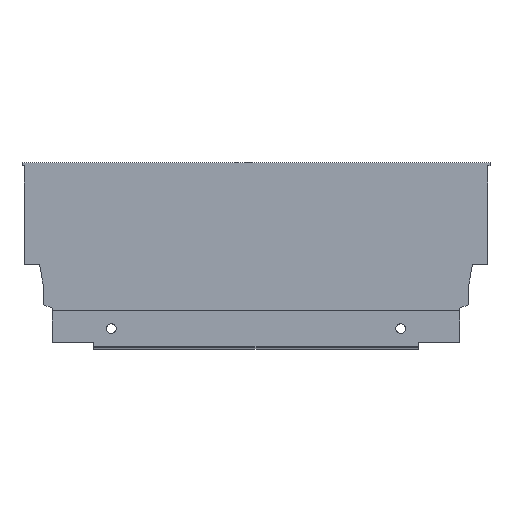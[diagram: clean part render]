
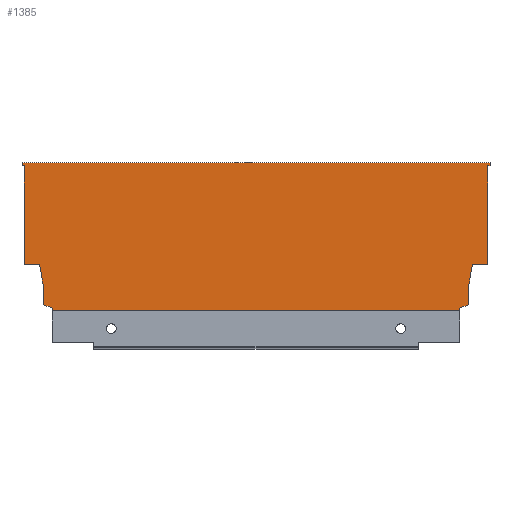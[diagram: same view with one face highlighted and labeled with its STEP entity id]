
A CAD part, top view. The second image highlights one B-rep face of the part: STEP entity #1385.
In plain terms, the highlighted planar face has unit normal (0, 0, 1).
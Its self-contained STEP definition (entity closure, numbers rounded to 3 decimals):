
#6 = CARTESIAN_POINT ( 'NONE',  ( 0., 21.2, 7.5 ) ) ;
#7 = CARTESIAN_POINT ( 'NONE',  ( -8.9, 2.64, 7.5 ) ) ;
#13 = CARTESIAN_POINT ( 'NONE',  ( 1., 66.5, 7.5 ) ) ;
#104 = VERTEX_POINT ( 'NONE', #13 ) ;
#110 = VERTEX_POINT ( 'NONE', #7 ) ;
#111 = VERTEX_POINT ( 'NONE', #6 ) ;
#113 = VERTEX_POINT ( 'NONE', #1464 ) ;
#116 = VERTEX_POINT ( 'NONE', #1461 ) ;
#118 = VERTEX_POINT ( 'NONE', #1459 ) ;
#119 = VERTEX_POINT ( 'NONE', #1458 ) ;
#122 = VERTEX_POINT ( 'NONE', #1455 ) ;
#124 = VERTEX_POINT ( 'NONE', #1453 ) ;
#125 = VERTEX_POINT ( 'NONE', #1452 ) ;
#128 = VERTEX_POINT ( 'NONE', #1449 ) ;
#129 = VERTEX_POINT ( 'NONE', #1448 ) ;
#130 = VERTEX_POINT ( 'NONE', #1447 ) ;
#136 = VERTEX_POINT ( 'NONE', #1441 ) ;
#138 = VERTEX_POINT ( 'NONE', #1439 ) ;
#139 = VERTEX_POINT ( 'NONE', #1438 ) ;
#141 = VERTEX_POINT ( 'NONE', #1436 ) ;
#142 = VERTEX_POINT ( 'NONE', #1435 ) ;
#169 = CARTESIAN_POINT ( 'NONE',  ( -213., 0., 7.5 ) ) ;
#171 = PLANE ( 'NONE',  #1013 ) ;
#176 = DIRECTION ( 'NONE',  ( 0., 0., 1. ) ) ;
#177 = DIRECTION ( 'NONE',  ( 1., 0., 0. ) ) ;
#365 = CARTESIAN_POINT ( 'NONE',  ( -214., 66.5, 7.5 ) ) ;
#366 = DIRECTION ( 'NONE',  ( 0., 1., 0. ) ) ;
#368 = CARTESIAN_POINT ( 'NONE',  ( -205.94, 21.2, 7.5 ) ) ;
#369 = DIRECTION ( 'NONE',  ( -0.174, 0.985, 0. ) ) ;
#370 = CARTESIAN_POINT ( 'NONE',  ( -213., 0., 7.5 ) ) ;
#375 = CARTESIAN_POINT ( 'NONE',  ( -213., 0., 7.5 ) ) ;
#376 = DIRECTION ( 'NONE',  ( 0., -1., 0. ) ) ;
#377 = CARTESIAN_POINT ( 'NONE',  ( -214., 66.5, 7.5 ) ) ;
#378 = DIRECTION ( 'NONE',  ( 1., 0., 0. ) ) ;
#379 = CARTESIAN_POINT ( 'NONE',  ( -204.1, 2.64, 7.5 ) ) ;
#380 = DIRECTION ( 'NONE',  ( -0.94, 0.342, 0. ) ) ;
#381 = CARTESIAN_POINT ( 'NONE',  ( -218., 21.2, 7.5 ) ) ;
#382 = DIRECTION ( 'NONE',  ( 1., 0., 0. ) ) ;
#383 = CARTESIAN_POINT ( 'NONE',  ( -8.9, 10.765, 7.5 ) ) ;
#384 = DIRECTION ( 'NONE',  ( 0., -1., 0. ) ) ;
#385 = CARTESIAN_POINT ( 'NONE',  ( -7.06, 21.2, 7.5 ) ) ;
#386 = DIRECTION ( 'NONE',  ( -1., 0., 0. ) ) ;
#387 = CARTESIAN_POINT ( 'NONE',  ( -213., 68., 7.5 ) ) ;
#388 = DIRECTION ( 'NONE',  ( -0.174, -0.985, 0. ) ) ;
#389 = CARTESIAN_POINT ( 'NONE',  ( 0., 21.2, 7.5 ) ) ;
#390 = DIRECTION ( 'NONE',  ( 1., 0., 0. ) ) ;
#391 = CARTESIAN_POINT ( 'NONE',  ( -204.1, 10.765, 7.5 ) ) ;
#392 = DIRECTION ( 'NONE',  ( -1., 0., 0. ) ) ;
#393 = CARTESIAN_POINT ( 'NONE',  ( 1., 66.5, 7.5 ) ) ;
#394 = DIRECTION ( 'NONE',  ( 0., 1., 0. ) ) ;
#395 = CARTESIAN_POINT ( 'NONE',  ( 1., 68., 7.5 ) ) ;
#396 = DIRECTION ( 'NONE',  ( -1., 0., 0. ) ) ;
#397 = CARTESIAN_POINT ( 'NONE',  ( -199.996, 1.146, 7.5 ) ) ;
#398 = DIRECTION ( 'NONE',  ( 0., 1., 0. ) ) ;
#400 = DIRECTION ( 'NONE',  ( 0., -1., 0. ) ) ;
#401 = CARTESIAN_POINT ( 'NONE',  ( -13.004, 1.146, 7.5 ) ) ;
#402 = DIRECTION ( 'NONE',  ( 0., -1., 0. ) ) ;
#405 = CARTESIAN_POINT ( 'NONE',  ( -8.9, 2.64, 7.5 ) ) ;
#406 = DIRECTION ( 'NONE',  ( -0.94, -0.342, 0. ) ) ;
#624 = DIRECTION ( 'NONE',  ( 0., -1., 0. ) ) ;
#629 = CARTESIAN_POINT ( 'NONE',  ( 0., 0., 7.5 ) ) ;
#735 = EDGE_LOOP ( 'NONE', ( #944, #943, #942, #941, #940, #939, #938, #937, #936, #935, #934, #933, #932, #931, #930, #929, #928, #927 ) ) ;
#927 = ORIENTED_EDGE ( 'NONE', *, *, #1488, .F. ) ;
#928 = ORIENTED_EDGE ( 'NONE', *, *, #1486, .F. ) ;
#929 = ORIENTED_EDGE ( 'NONE', *, *, #989, .F. ) ;
#930 = ORIENTED_EDGE ( 'NONE', *, *, #1484, .F. ) ;
#931 = ORIENTED_EDGE ( 'NONE', *, *, #1482, .F. ) ;
#932 = ORIENTED_EDGE ( 'NONE', *, *, #1480, .F. ) ;
#933 = ORIENTED_EDGE ( 'NONE', *, *, #1491, .F. ) ;
#934 = ORIENTED_EDGE ( 'NONE', *, *, #1489, .F. ) ;
#935 = ORIENTED_EDGE ( 'NONE', *, *, #1477, .T. ) ;
#936 = ORIENTED_EDGE ( 'NONE', *, *, #1487, .F. ) ;
#937 = ORIENTED_EDGE ( 'NONE', *, *, #1478, .F. ) ;
#938 = ORIENTED_EDGE ( 'NONE', *, *, #1485, .F. ) ;
#939 = ORIENTED_EDGE ( 'NONE', *, *, #1473, .F. ) ;
#940 = ORIENTED_EDGE ( 'NONE', *, *, #1481, .F. ) ;
#941 = ORIENTED_EDGE ( 'NONE', *, *, #1476, .T. ) ;
#942 = ORIENTED_EDGE ( 'NONE', *, *, #1479, .T. ) ;
#943 = ORIENTED_EDGE ( 'NONE', *, *, #1472, .F. ) ;
#944 = ORIENTED_EDGE ( 'NONE', *, *, #1483, .F. ) ;
#989 = EDGE_CURVE ( 'NONE', #118, #111, #1384, .T. ) ;
#1013 = AXIS2_PLACEMENT_3D ( 'NONE', #169, #176, #177 ) ;
#1248 = VECTOR ( 'NONE', #406, 1000. ) ;
#1249 = LINE ( 'NONE', #405, #1248 ) ;
#1252 = VECTOR ( 'NONE', #402, 1000. ) ;
#1253 = LINE ( 'NONE', #401, #1252 ) ;
#1255 = VECTOR ( 'NONE', #400, 1000. ) ;
#1256 = VECTOR ( 'NONE', #398, 1000. ) ;
#1257 = LINE ( 'NONE', #397, #1256 ) ;
#1259 = VECTOR ( 'NONE', #396, 1000. ) ;
#1261 = VECTOR ( 'NONE', #394, 1000. ) ;
#1262 = LINE ( 'NONE', #395, #1255 ) ;
#1263 = VECTOR ( 'NONE', #392, 1000. ) ;
#1264 = LINE ( 'NONE', #393, #1259 ) ;
#1265 = VECTOR ( 'NONE', #390, 1000. ) ;
#1266 = LINE ( 'NONE', #391, #1261 ) ;
#1267 = VECTOR ( 'NONE', #388, 1000. ) ;
#1268 = LINE ( 'NONE', #389, #1263 ) ;
#1269 = VECTOR ( 'NONE', #386, 1000. ) ;
#1270 = VECTOR ( 'NONE', #384, 1000. ) ;
#1271 = LINE ( 'NONE', #383, #1270 ) ;
#1272 = LINE ( 'NONE', #387, #1265 ) ;
#1273 = VECTOR ( 'NONE', #382, 1000. ) ;
#1274 = VECTOR ( 'NONE', #380, 1000. ) ;
#1275 = LINE ( 'NONE', #379, #1274 ) ;
#1276 = LINE ( 'NONE', #385, #1267 ) ;
#1277 = VECTOR ( 'NONE', #378, 1000. ) ;
#1279 = LINE ( 'NONE', #370, #1277 ) ;
#1280 = LINE ( 'NONE', #377, #1273 ) ;
#1281 = LINE ( 'NONE', #381, #1269 ) ;
#1282 = LINE ( 'NONE', #375, #1286 ) ;
#1284 = VECTOR ( 'NONE', #369, 1000. ) ;
#1285 = LINE ( 'NONE', #368, #1284 ) ;
#1286 = VECTOR ( 'NONE', #376, 1000. ) ;
#1293 = VECTOR ( 'NONE', #366, 1000. ) ;
#1314 = LINE ( 'NONE', #365, #1293 ) ;
#1349 = FACE_OUTER_BOUND ( 'NONE', #735, .T. ) ;
#1375 = VECTOR ( 'NONE', #624, 1000. ) ;
#1384 = LINE ( 'NONE', #629, #1375 ) ;
#1385 = ADVANCED_FACE ( 'NONE', ( #1349 ), #171, .T. ) ;
#1435 = CARTESIAN_POINT ( 'NONE',  ( -204.1, 2.64, 7.5 ) ) ;
#1436 = CARTESIAN_POINT ( 'NONE',  ( -214., 66.5, 7.5 ) ) ;
#1438 = CARTESIAN_POINT ( 'NONE',  ( 1., 68., 7.5 ) ) ;
#1439 = CARTESIAN_POINT ( 'NONE',  ( -213., 66.5, 7.5 ) ) ;
#1441 = CARTESIAN_POINT ( 'NONE',  ( -13.004, 1.146, 7.5 ) ) ;
#1447 = CARTESIAN_POINT ( 'NONE',  ( -199.996, 0., 7.5 ) ) ;
#1448 = CARTESIAN_POINT ( 'NONE',  ( -13.004, 0., 7.5 ) ) ;
#1449 = CARTESIAN_POINT ( 'NONE',  ( -213., 21.2, 7.5 ) ) ;
#1452 = CARTESIAN_POINT ( 'NONE',  ( -7.06, 21.2, 7.5 ) ) ;
#1453 = CARTESIAN_POINT ( 'NONE',  ( -199.996, 1.146, 7.5 ) ) ;
#1455 = CARTESIAN_POINT ( 'NONE',  ( -214., 68., 7.5 ) ) ;
#1458 = CARTESIAN_POINT ( 'NONE',  ( -8.9, 10.765, 7.5 ) ) ;
#1459 = CARTESIAN_POINT ( 'NONE',  ( 0., 66.5, 7.5 ) ) ;
#1461 = CARTESIAN_POINT ( 'NONE',  ( -205.94, 21.2, 7.5 ) ) ;
#1464 = CARTESIAN_POINT ( 'NONE',  ( -204.1, 10.765, 7.5 ) ) ;
#1472 = EDGE_CURVE ( 'NONE', #141, #122, #1314, .T. ) ;
#1473 = EDGE_CURVE ( 'NONE', #113, #116, #1285, .T. ) ;
#1476 = EDGE_CURVE ( 'NONE', #138, #128, #1282, .T. ) ;
#1477 = EDGE_CURVE ( 'NONE', #130, #129, #1279, .T. ) ;
#1478 = EDGE_CURVE ( 'NONE', #124, #142, #1275, .T. ) ;
#1479 = EDGE_CURVE ( 'NONE', #141, #138, #1280, .T. ) ;
#1480 = EDGE_CURVE ( 'NONE', #119, #110, #1271, .T. ) ;
#1481 = EDGE_CURVE ( 'NONE', #116, #128, #1281, .T. ) ;
#1482 = EDGE_CURVE ( 'NONE', #125, #119, #1276, .T. ) ;
#1483 = EDGE_CURVE ( 'NONE', #122, #139, #1272, .T. ) ;
#1484 = EDGE_CURVE ( 'NONE', #111, #125, #1268, .T. ) ;
#1485 = EDGE_CURVE ( 'NONE', #142, #113, #1266, .T. ) ;
#1486 = EDGE_CURVE ( 'NONE', #104, #118, #1264, .T. ) ;
#1487 = EDGE_CURVE ( 'NONE', #130, #124, #1257, .T. ) ;
#1488 = EDGE_CURVE ( 'NONE', #139, #104, #1262, .T. ) ;
#1489 = EDGE_CURVE ( 'NONE', #136, #129, #1253, .T. ) ;
#1491 = EDGE_CURVE ( 'NONE', #110, #136, #1249, .T. ) ;
